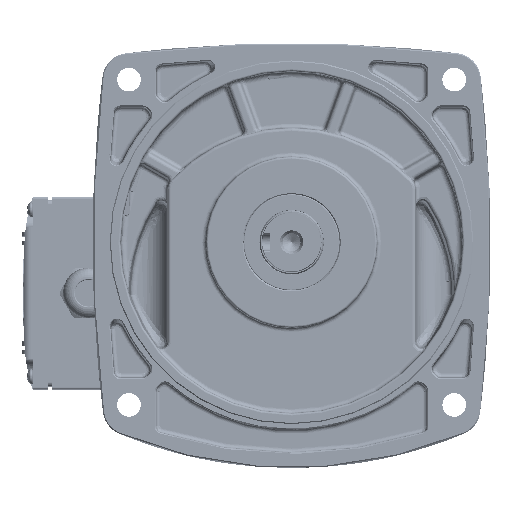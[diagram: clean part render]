
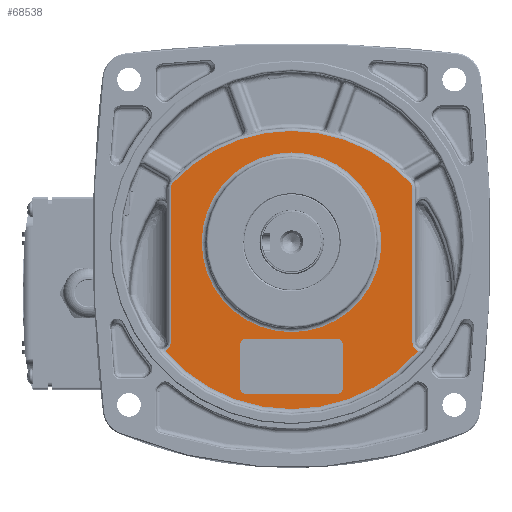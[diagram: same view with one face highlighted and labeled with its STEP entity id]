
A CAD part, top view. The second image highlights one B-rep face of the part: STEP entity #68538.
In plain terms, the highlighted planar face has unit normal (0, 0, 1).
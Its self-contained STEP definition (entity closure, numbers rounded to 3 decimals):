
#3119=B_SPLINE_CURVE_WITH_KNOTS('',3,(#146859,#146860,#146861,#146862,#146863),
 .UNSPECIFIED.,.F.,.F.,(4,1,4),(0.603,0.795,1.113),
 .UNSPECIFIED.);
#3121=B_SPLINE_CURVE_WITH_KNOTS('',3,(#146875,#146876,#146877,#146878,#146879),
 .UNSPECIFIED.,.F.,.F.,(4,1,4),(0.,0.318,0.51),
 .UNSPECIFIED.);
#3122=B_SPLINE_CURVE_WITH_KNOTS('',3,(#146883,#146884,#146885,#146886),
 .UNSPECIFIED.,.F.,.F.,(4,4),(0.,0.336),.UNSPECIFIED.);
#3123=B_SPLINE_CURVE_WITH_KNOTS('',3,(#146890,#146891,#146892,#146893),
 .UNSPECIFIED.,.F.,.F.,(4,4),(0.,0.336),.UNSPECIFIED.);
#5027=LINE('',#140009,#8391);
#5031=LINE('',#140021,#8395);
#5066=LINE('',#140140,#8430);
#5136=LINE('',#140325,#8500);
#5376=LINE('',#146881,#8740);
#5377=LINE('',#146894,#8741);
#8391=VECTOR('',#84639,10.);
#8395=VECTOR('',#84651,10.);
#8430=VECTOR('',#84742,10.);
#8500=VECTOR('',#84930,10.);
#8740=VECTOR('',#86230,10.);
#8741=VECTOR('',#86233,10.);
#12430=FACE_BOUND('',#19057,.T.);
#12431=FACE_BOUND('',#19058,.T.);
#14801=FACE_OUTER_BOUND('',#19056,.T.);
#19056=EDGE_LOOP('',(#51602,#51603,#51604,#51605,#51606,#51607,#51608,#51609));
#19057=EDGE_LOOP('',(#51610,#51611,#51612,#51613,#51614,#51615,#51616,#51617));
#19058=EDGE_LOOP('',(#51618));
#22990=CIRCLE('',#73520,3.);
#22992=CIRCLE('',#73524,3.);
#22994=CIRCLE('',#73528,3.);
#23018=CIRCLE('',#73555,3.);
#23324=CIRCLE('',#74138,77.963);
#23328=CIRCLE('',#74143,75.535);
#23329=CIRCLE('',#74144,42.);
#27834=VERTEX_POINT('',#139999);
#27835=VERTEX_POINT('',#140001);
#27837=VERTEX_POINT('',#140007);
#27839=VERTEX_POINT('',#140013);
#27841=VERTEX_POINT('',#140019);
#27844=VERTEX_POINT('',#140026);
#27845=VERTEX_POINT('',#140028);
#27897=VERTEX_POINT('',#140139);
#28366=VERTEX_POINT('',#146646);
#28367=VERTEX_POINT('',#146648);
#28371=VERTEX_POINT('',#146858);
#28373=VERTEX_POINT('',#146874);
#28374=VERTEX_POINT('',#146880);
#28375=VERTEX_POINT('',#146882);
#28376=VERTEX_POINT('',#146887);
#28377=VERTEX_POINT('',#146889);
#28378=VERTEX_POINT('',#146895);
#35671=EDGE_CURVE('',#27834,#27835,#22990,.T.);
#35675=EDGE_CURVE('',#27834,#27837,#5027,.T.);
#35678=EDGE_CURVE('',#27839,#27837,#22992,.T.);
#35681=EDGE_CURVE('',#27839,#27841,#5031,.T.);
#35684=EDGE_CURVE('',#27844,#27845,#22994,.T.);
#35741=EDGE_CURVE('',#27897,#27845,#5066,.T.);
#35743=EDGE_CURVE('',#27897,#27841,#23018,.T.);
#35836=EDGE_CURVE('',#27844,#27835,#5136,.T.);
#36583=EDGE_CURVE('',#28366,#28367,#23324,.T.);
#36590=EDGE_CURVE('',#28367,#28371,#3119,.T.);
#36593=EDGE_CURVE('',#28373,#28366,#3121,.T.);
#36594=EDGE_CURVE('',#28374,#28373,#5376,.T.);
#36595=EDGE_CURVE('',#28375,#28374,#3122,.T.);
#36596=EDGE_CURVE('',#28376,#28375,#23328,.T.);
#36597=EDGE_CURVE('',#28377,#28376,#3123,.T.);
#36598=EDGE_CURVE('',#28371,#28377,#5377,.T.);
#36599=EDGE_CURVE('',#28378,#28378,#23329,.T.);
#51602=ORIENTED_EDGE('',*,*,#36583,.F.);
#51603=ORIENTED_EDGE('',*,*,#36593,.F.);
#51604=ORIENTED_EDGE('',*,*,#36594,.F.);
#51605=ORIENTED_EDGE('',*,*,#36595,.F.);
#51606=ORIENTED_EDGE('',*,*,#36596,.F.);
#51607=ORIENTED_EDGE('',*,*,#36597,.F.);
#51608=ORIENTED_EDGE('',*,*,#36598,.F.);
#51609=ORIENTED_EDGE('',*,*,#36590,.F.);
#51610=ORIENTED_EDGE('',*,*,#35681,.T.);
#51611=ORIENTED_EDGE('',*,*,#35743,.F.);
#51612=ORIENTED_EDGE('',*,*,#35741,.T.);
#51613=ORIENTED_EDGE('',*,*,#35684,.F.);
#51614=ORIENTED_EDGE('',*,*,#35836,.T.);
#51615=ORIENTED_EDGE('',*,*,#35671,.F.);
#51616=ORIENTED_EDGE('',*,*,#35675,.T.);
#51617=ORIENTED_EDGE('',*,*,#35678,.F.);
#51618=ORIENTED_EDGE('',*,*,#36599,.F.);
#62061=PLANE('',#74142);
#68538=ADVANCED_FACE('',(#14801,#12430,#12431),#62061,.F.);
#73520=AXIS2_PLACEMENT_3D('',#140002,#84632,#84633);
#73524=AXIS2_PLACEMENT_3D('',#140015,#84645,#84646);
#73528=AXIS2_PLACEMENT_3D('',#140029,#84657,#84658);
#73555=AXIS2_PLACEMENT_3D('',#140143,#84746,#84747);
#74138=AXIS2_PLACEMENT_3D('',#146649,#86220,#86221);
#74142=AXIS2_PLACEMENT_3D('',#146873,#86228,#86229);
#74143=AXIS2_PLACEMENT_3D('',#146888,#86231,#86232);
#74144=AXIS2_PLACEMENT_3D('',#146896,#86234,#86235);
#84632=DIRECTION('center_axis',(0.,0.,1.));
#84633=DIRECTION('ref_axis',(0.707,-0.707,0.));
#84639=DIRECTION('',(-1.,0.,0.));
#84645=DIRECTION('center_axis',(0.,0.,1.));
#84646=DIRECTION('ref_axis',(-0.707,-0.707,0.));
#84651=DIRECTION('',(0.,1.,0.));
#84657=DIRECTION('center_axis',(0.,0.,1.));
#84658=DIRECTION('ref_axis',(0.707,0.707,0.));
#84742=DIRECTION('',(1.,0.,0.));
#84746=DIRECTION('center_axis',(0.,0.,1.));
#84747=DIRECTION('ref_axis',(-0.707,0.707,0.));
#84930=DIRECTION('',(0.,-1.,0.));
#86220=DIRECTION('center_axis',(0.,0.,-1.));
#86221=DIRECTION('ref_axis',(0.,-1.,0.));
#86228=DIRECTION('center_axis',(0.,0.,-1.));
#86229=DIRECTION('ref_axis',(-1.,0.,0.));
#86230=DIRECTION('',(0.,-1.,0.));
#86231=DIRECTION('center_axis',(0.,0.,-1.));
#86232=DIRECTION('ref_axis',(0.,1.,0.));
#86233=DIRECTION('',(0.,1.,0.));
#86234=DIRECTION('center_axis',(0.,0.,1.));
#86235=DIRECTION('ref_axis',(-1.,0.,0.));
#139999=CARTESIAN_POINT('',(23.891,-47.42,56.));
#140001=CARTESIAN_POINT('',(26.891,-44.42,56.));
#140002=CARTESIAN_POINT('Origin',(23.891,-44.42,56.));
#140007=CARTESIAN_POINT('',(-18.109,-47.42,56.));
#140009=CARTESIAN_POINT('',(-9.109,-47.42,56.));
#140013=CARTESIAN_POINT('',(-21.109,-44.42,56.));
#140015=CARTESIAN_POINT('Origin',(-18.109,-44.42,56.));
#140019=CARTESIAN_POINT('',(-21.109,-24.42,56.));
#140021=CARTESIAN_POINT('',(-21.109,-10.67,56.));
#140026=CARTESIAN_POINT('',(26.891,-24.42,56.));
#140028=CARTESIAN_POINT('',(23.891,-21.42,56.));
#140029=CARTESIAN_POINT('Origin',(23.891,-24.42,56.));
#140139=CARTESIAN_POINT('',(-18.109,-21.42,56.));
#140140=CARTESIAN_POINT('',(14.891,-21.42,56.));
#140143=CARTESIAN_POINT('Origin',(-18.109,-24.42,56.));
#140325=CARTESIAN_POINT('',(26.891,-23.67,56.));
#146646=CARTESIAN_POINT('',(62.014,-27.239,56.));
#146648=CARTESIAN_POINT('',(-56.233,-27.239,56.));
#146649=CARTESIAN_POINT('Origin',(2.891,23.58,56.));
#146858=CARTESIAN_POINT('',(-53.609,-23.142,56.));
#146859=CARTESIAN_POINT('Ctrl Pts',(-56.235,-27.235,
56.));
#146860=CARTESIAN_POINT('Ctrl Pts',(-55.648,-26.963,
56.));
#146861=CARTESIAN_POINT('Ctrl Pts',(-54.241,-25.914,
56.));
#146862=CARTESIAN_POINT('Ctrl Pts',(-53.609,-24.202,
56.));
#146863=CARTESIAN_POINT('Ctrl Pts',(-53.609,-23.142,56.));
#146873=CARTESIAN_POINT('Origin',(2.891,0.08,56.));
#146874=CARTESIAN_POINT('',(59.391,-23.142,56.));
#146875=CARTESIAN_POINT('Ctrl Pts',(59.391,-23.142,
56.));
#146876=CARTESIAN_POINT('Ctrl Pts',(59.391,-24.202,
56.));
#146877=CARTESIAN_POINT('Ctrl Pts',(60.023,-25.914,
56.));
#146878=CARTESIAN_POINT('Ctrl Pts',(61.43,-26.963,
56.));
#146879=CARTESIAN_POINT('Ctrl Pts',(62.016,-27.235,
56.));
#146880=CARTESIAN_POINT('',(59.391,48.472,56.));
#146881=CARTESIAN_POINT('',(59.391,-35.67,56.));
#146882=CARTESIAN_POINT('',(58.184,51.541,56.));
#146883=CARTESIAN_POINT('Ctrl Pts',(58.184,51.541,56.));
#146884=CARTESIAN_POINT('Ctrl Pts',(58.946,50.722,56.));
#146885=CARTESIAN_POINT('Ctrl Pts',(59.391,49.591,56.));
#146886=CARTESIAN_POINT('Ctrl Pts',(59.391,48.472,56.));
#146887=CARTESIAN_POINT('',(-52.402,51.541,56.));
#146888=CARTESIAN_POINT('Origin',(2.891,0.08,56.));
#146889=CARTESIAN_POINT('',(-53.609,48.472,56.));
#146890=CARTESIAN_POINT('Ctrl Pts',(-53.609,48.472,56.));
#146891=CARTESIAN_POINT('Ctrl Pts',(-53.609,49.591,56.));
#146892=CARTESIAN_POINT('Ctrl Pts',(-53.165,50.722,
56.));
#146893=CARTESIAN_POINT('Ctrl Pts',(-52.402,51.541,
56.));
#146894=CARTESIAN_POINT('',(-53.609,-35.67,56.));
#146895=CARTESIAN_POINT('',(44.891,23.58,56.));
#146896=CARTESIAN_POINT('Origin',(2.891,23.58,56.));
